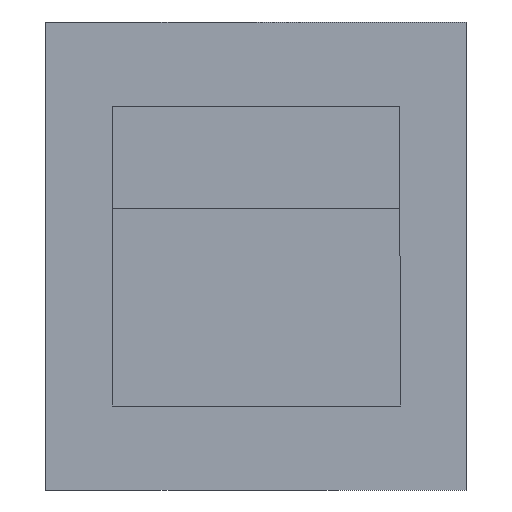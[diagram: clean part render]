
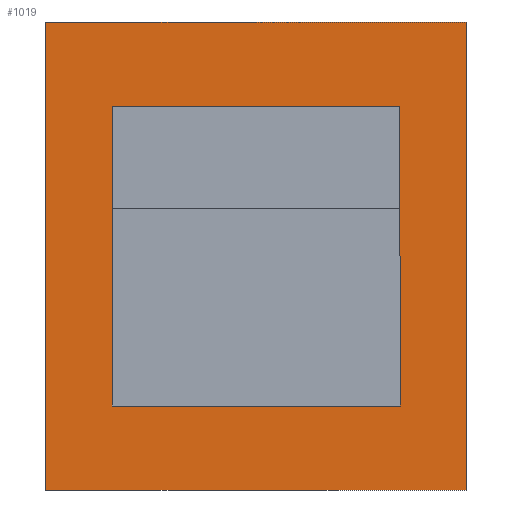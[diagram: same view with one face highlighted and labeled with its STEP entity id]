
A CAD part, front view. The second image highlights one B-rep face of the part: STEP entity #1019.
In plain terms, the highlighted planar face has unit normal (0, -1, 0).
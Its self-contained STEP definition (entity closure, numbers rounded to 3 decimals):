
#15 = LINE ( 'NONE', #1125, #1108 ) ;
#35 = LINE ( 'NONE', #191, #483 ) ;
#73 = CARTESIAN_POINT ( 'NONE',  ( 0., -11.2, -17.972 ) ) ;
#75 = CARTESIAN_POINT ( 'NONE',  ( -1.1, -11.2, -2.1 ) ) ;
#117 = VERTEX_POINT ( 'NONE', #1018 ) ;
#118 = FACE_BOUND ( 'NONE', #178, .T. ) ;
#124 = CARTESIAN_POINT ( 'NONE',  ( 0., -11.2, 4.3 ) ) ;
#130 = EDGE_CURVE ( 'NONE', #868, #611, #1117, .T. ) ;
#153 = CARTESIAN_POINT ( 'NONE',  ( -7., -11.2, 4.3 ) ) ;
#178 = EDGE_LOOP ( 'NONE', ( #768, #822, #803, #597 ) ) ;
#184 = CARTESIAN_POINT ( 'NONE',  ( -3.5, -11.2, 2.9 ) ) ;
#185 = EDGE_CURVE ( 'NONE', #594, #831, #880, .T. ) ;
#191 = CARTESIAN_POINT ( 'NONE',  ( -1.1, -11.2, -7.893 ) ) ;
#210 = LINE ( 'NONE', #73, #490 ) ;
#237 = DIRECTION ( 'NONE',  ( 1., 0., 0. ) ) ;
#240 = CARTESIAN_POINT ( 'NONE',  ( -7., -11.2, 4.3 ) ) ;
#241 = LINE ( 'NONE', #686, #939 ) ;
#254 = VERTEX_POINT ( 'NONE', #870 ) ;
#300 = CARTESIAN_POINT ( 'NONE',  ( -7., -11.2, -3.5 ) ) ;
#310 = VERTEX_POINT ( 'NONE', #75 ) ;
#327 = CARTESIAN_POINT ( 'NONE',  ( -7., -11.2, -17.972 ) ) ;
#331 = CARTESIAN_POINT ( 'NONE',  ( -5.9, -11.2, -7.893 ) ) ;
#332 = ORIENTED_EDGE ( 'NONE', *, *, #608, .F. ) ;
#375 = CARTESIAN_POINT ( 'NONE',  ( -7., -11.2, -3.5 ) ) ;
#390 = LINE ( 'NONE', #300, #671 ) ;
#398 = FACE_OUTER_BOUND ( 'NONE', #940, .T. ) ;
#399 = CARTESIAN_POINT ( 'NONE',  ( -5.9, -11.2, -2.1 ) ) ;
#425 = PLANE ( 'NONE',  #639 ) ;
#430 = LINE ( 'NONE', #184, #1041 ) ;
#431 = DIRECTION ( 'NONE',  ( 0., 0., 1. ) ) ;
#440 = EDGE_CURVE ( 'NONE', #310, #117, #35, .T. ) ;
#469 = ORIENTED_EDGE ( 'NONE', *, *, #845, .T. ) ;
#475 = DIRECTION ( 'NONE',  ( 0., 0., 1. ) ) ;
#482 = DIRECTION ( 'NONE',  ( 1., 0., 0. ) ) ;
#483 = VECTOR ( 'NONE', #475, 1000. ) ;
#490 = VECTOR ( 'NONE', #945, 1000. ) ;
#570 = EDGE_CURVE ( 'NONE', #868, #310, #241, .T. ) ;
#594 = VERTEX_POINT ( 'NONE', #153 ) ;
#597 = ORIENTED_EDGE ( 'NONE', *, *, #570, .F. ) ;
#608 = EDGE_CURVE ( 'NONE', #1131, #594, #15, .T. ) ;
#611 = VERTEX_POINT ( 'NONE', #941 ) ;
#630 = EDGE_CURVE ( 'NONE', #254, #831, #210, .T. ) ;
#639 = AXIS2_PLACEMENT_3D ( 'NONE', #327, #849, #653 ) ;
#653 = DIRECTION ( 'NONE',  ( 0., 0., 1. ) ) ;
#671 = VECTOR ( 'NONE', #482, 1000. ) ;
#686 = CARTESIAN_POINT ( 'NONE',  ( -3.5, -11.2, -2.1 ) ) ;
#707 = VECTOR ( 'NONE', #1033, 1000. ) ;
#768 = ORIENTED_EDGE ( 'NONE', *, *, #130, .T. ) ;
#782 = VECTOR ( 'NONE', #948, 1000. ) ;
#803 = ORIENTED_EDGE ( 'NONE', *, *, #440, .F. ) ;
#814 = DIRECTION ( 'NONE',  ( 1., 0., 0. ) ) ;
#822 = ORIENTED_EDGE ( 'NONE', *, *, #1043, .T. ) ;
#831 = VERTEX_POINT ( 'NONE', #124 ) ;
#845 = EDGE_CURVE ( 'NONE', #1131, #254, #390, .T. ) ;
#849 = DIRECTION ( 'NONE',  ( 0., 1., 0. ) ) ;
#868 = VERTEX_POINT ( 'NONE', #399 ) ;
#870 = CARTESIAN_POINT ( 'NONE',  ( 0., -11.2, -3.5 ) ) ;
#880 = LINE ( 'NONE', #240, #782 ) ;
#939 = VECTOR ( 'NONE', #237, 1000. ) ;
#940 = EDGE_LOOP ( 'NONE', ( #997, #1121, #332, #469 ) ) ;
#941 = CARTESIAN_POINT ( 'NONE',  ( -5.9, -11.2, 2.9 ) ) ;
#945 = DIRECTION ( 'NONE',  ( 0., 0., 1. ) ) ;
#948 = DIRECTION ( 'NONE',  ( 1., 0., 0. ) ) ;
#997 = ORIENTED_EDGE ( 'NONE', *, *, #630, .T. ) ;
#1018 = CARTESIAN_POINT ( 'NONE',  ( -1.1, -11.2, 2.9 ) ) ;
#1019 = ADVANCED_FACE ( 'NONE', ( #398, #118 ), #425, .F. ) ;
#1033 = DIRECTION ( 'NONE',  ( 0., 0., 1. ) ) ;
#1041 = VECTOR ( 'NONE', #814, 1000. ) ;
#1043 = EDGE_CURVE ( 'NONE', #611, #117, #430, .T. ) ;
#1108 = VECTOR ( 'NONE', #431, 1000. ) ;
#1117 = LINE ( 'NONE', #331, #707 ) ;
#1121 = ORIENTED_EDGE ( 'NONE', *, *, #185, .F. ) ;
#1125 = CARTESIAN_POINT ( 'NONE',  ( -7., -11.2, -17.972 ) ) ;
#1131 = VERTEX_POINT ( 'NONE', #375 ) ;
